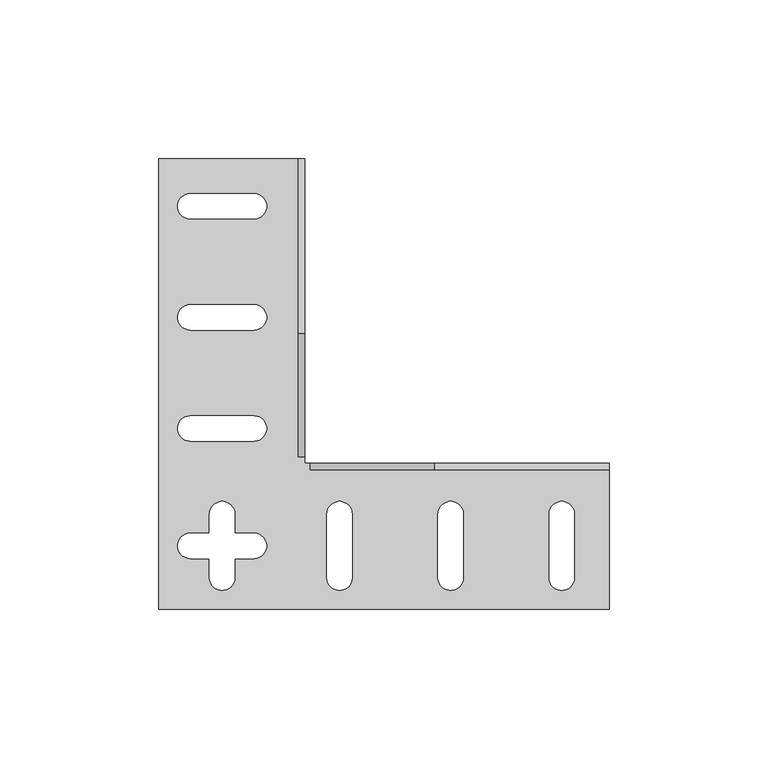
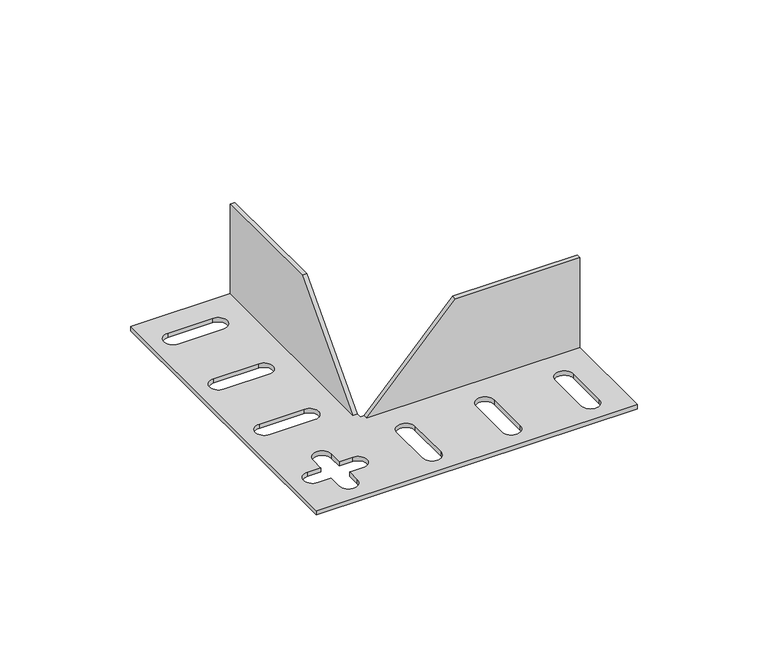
"""IFC4 building model written with IfcOpenShell, lengths in millimetres: proxy geometry, Cable_Tray_PDBPE_Basorplast : Cable_Tray_PDBPE_Basorplast."""

from ifc_helpers import new_model, si_unit, point, frame, frame_2d, origin, origin_with_axes, place, context, project, spatial, polyline, circle_curve, trimmed, segment, composite_curve, outline, extrude, source, transform, mapped, element, save


def generic_models_6ad4b34d(model_context):
    return source(origin(), model_context, "Body", "SweptSolid", [
        extrude(outline(polyline([(96.0, 2.0), (2.015446, 2.0), (41.0, 44.0), (96.0, 44.0), (96.0, 2.0)])), frame((-2.0, 0.0, 0.0), z_axis=(1.0, 0.0, 0.0), x_axis=(0.0, 1.0, 0.0)), (0.0, 0.0, 1.0), 2.0),
        extrude(outline(polyline([(44.0, 96.0), (44.0, 41.0), (2.0, 1.8343664), (2.0, 96.0), (44.0, 96.0)])), frame((0.0, -2.0, 0.0), z_axis=(0.0, 1.0, 0.0), x_axis=(0.0, 0.0, 1.0)), (0.0, 0.0, 1.0), 2.0),
        extrude(outline(polyline([(-46.0, 96.0), (0.0, 96.0), (0.0, 0.0), (96.0, 0.0), (96.0, -46.0), (-46.0, -46.0), (-46.0, 96.0)]), holes=[composite_curve([segment(trimmed(circle_curve(frame_2d((81.0, -16.0)), 4.0), [point((85.0, -16.0))], [point((77.0, -16.0))], True, "CARTESIAN"), True, "CONTINUOUS"), segment(polyline([(77.0, -16.0), (77.0, -36.0)]), True, "CONTINUOUS"), segment(trimmed(circle_curve(frame_2d((81.0, -36.0)), 4.0), [point((77.0, -36.0))], [point((85.0, -36.0))], True, "CARTESIAN"), True, "CONTINUOUS"), segment(polyline([(85.0, -36.0), (85.0, -16.0)]), True, "CONTINUOUS")], self_intersect=False), composite_curve([segment(trimmed(circle_curve(frame_2d((46.0, -16.0)), 4.0), [point((50.0, -16.0))], [point((42.0, -16.0))], True, "CARTESIAN"), True, "CONTINUOUS"), segment(polyline([(42.0, -16.0), (42.0, -36.0)]), True, "CONTINUOUS"), segment(trimmed(circle_curve(frame_2d((46.0, -36.0)), 4.0), [point((42.0, -36.0))], [point((50.0, -36.0))], True, "CARTESIAN"), True, "CONTINUOUS"), segment(polyline([(50.0, -36.0), (50.0, -16.0)]), True, "CONTINUOUS")], self_intersect=False), composite_curve([segment(trimmed(circle_curve(frame_2d((11.0, -16.0)), 4.0), [point((15.0, -16.0))], [point((7.0, -16.0))], True, "CARTESIAN"), True, "CONTINUOUS"), segment(polyline([(7.0, -16.0), (7.0, -36.0)]), True, "CONTINUOUS"), segment(trimmed(circle_curve(frame_2d((11.0, -36.0)), 4.0), [point((7.0, -36.0))], [point((15.0, -36.0))], True, "CARTESIAN"), True, "CONTINUOUS"), segment(polyline([(15.0, -36.0), (15.0, -16.0)]), True, "CONTINUOUS")], self_intersect=False), composite_curve([segment(trimmed(circle_curve(frame_2d((-16.0, 81.0)), 4.0), [point((-16.0, 77.0))], [point((-16.0, 85.0))], True, "CARTESIAN"), True, "CONTINUOUS"), segment(polyline([(-16.0, 85.0), (-36.0, 85.0)]), True, "CONTINUOUS"), segment(trimmed(circle_curve(frame_2d((-36.0, 81.0)), 4.0), [point((-36.0, 85.0))], [point((-36.0, 77.0))], True, "CARTESIAN"), True, "CONTINUOUS"), segment(polyline([(-36.0, 77.0), (-16.0, 77.0)]), True, "CONTINUOUS")], self_intersect=False), composite_curve([segment(trimmed(circle_curve(frame_2d((-16.0, 46.0)), 4.0), [point((-16.0, 42.0))], [point((-16.0, 50.0))], True, "CARTESIAN"), True, "CONTINUOUS"), segment(polyline([(-16.0, 50.0), (-36.0, 50.0)]), True, "CONTINUOUS"), segment(trimmed(circle_curve(frame_2d((-36.0, 46.0)), 4.0), [point((-36.0, 50.0))], [point((-36.0, 42.0))], True, "CARTESIAN"), True, "CONTINUOUS"), segment(polyline([(-36.0, 42.0), (-16.0, 42.0)]), True, "CONTINUOUS")], self_intersect=False), composite_curve([segment(trimmed(circle_curve(frame_2d((-16.0, 11.0)), 4.0), [point((-16.0, 7.0))], [point((-16.0, 15.0))], True, "CARTESIAN"), True, "CONTINUOUS"), segment(polyline([(-16.0, 15.0), (-36.0, 15.0)]), True, "CONTINUOUS"), segment(trimmed(circle_curve(frame_2d((-36.0, 11.0)), 4.0), [point((-36.0, 15.0))], [point((-36.0, 7.0))], True, "CARTESIAN"), True, "CONTINUOUS"), segment(polyline([(-36.0, 7.0), (-16.0, 7.0)]), True, "CONTINUOUS")], self_intersect=False), composite_curve([segment(trimmed(circle_curve(frame_2d((-26.0, -16.0)), 4.0), [point((-22.0, -16.0))], [point((-30.0, -16.0))], True, "CARTESIAN"), True, "CONTINUOUS"), segment(polyline([(-30.0, -16.0), (-30.0, -22.0), (-36.0, -22.0)]), True, "CONTINUOUS"), segment(trimmed(circle_curve(frame_2d((-36.0, -26.0)), 4.0), [point((-36.0, -22.0))], [point((-36.0, -30.0))], True, "CARTESIAN"), True, "CONTINUOUS"), segment(polyline([(-36.0, -30.0), (-30.0, -30.0), (-30.0, -36.0)]), True, "CONTINUOUS"), segment(trimmed(circle_curve(frame_2d((-26.0, -36.0)), 4.0), [point((-30.0, -36.0))], [point((-22.0, -36.0))], True, "CARTESIAN"), True, "CONTINUOUS"), segment(polyline([(-22.0, -36.0), (-22.0, -30.0), (-16.0, -30.0)]), True, "CONTINUOUS"), segment(trimmed(circle_curve(frame_2d((-16.0, -26.0)), 4.0), [point((-16.0, -30.0))], [point((-16.0, -22.0))], True, "CARTESIAN"), True, "CONTINUOUS"), segment(polyline([(-16.0, -22.0), (-22.0, -22.0), (-22.0, -16.0)]), True, "CONTINUOUS")], self_intersect=False)]), origin_with_axes(), (0.0, 0.0, 1.0), 2.0),
    ])


if __name__ == "__main__":
    model = new_model("IFC4")
    model_context = context("Model", 3, world=origin())
    ifc_project = project(units=[si_unit("LENGTHUNIT", "METRE", prefix="MILLI")], contexts=[model_context])
    site = spatial("IfcSite", under=ifc_project)
    building = spatial("IfcBuilding", under=site)
    placement = place(None, origin())
    generic_models_shape = generic_models_6ad4b34d(model_context)
    element("IfcBuildingElementProxy", 1, Name="Cable_Tray_PDBPE_Basorplast : Cable_Tray_PDBPE_Basorplast", ObjectType="Cable_Tray_PDBPE_Basorplast : Cable_Tray_PDBPE_Basorplast", at=placement, inside=building, context=model_context, shape_type="MappedRepresentation", body=[
        mapped(generic_models_shape, transform((0.0, 0.0, 0.0), x_axis=(1.0, 0.0, 0.0), y_axis=(0.0, 1.0, 0.0), z_axis=(0.0, 0.0, 1.0))),
    ])
    save(model, "model.ifc")
